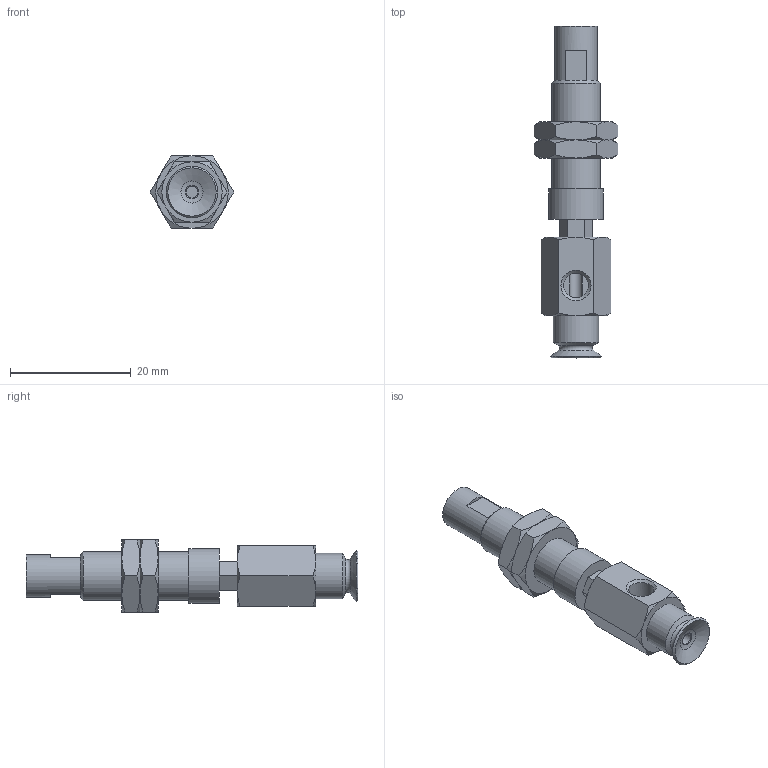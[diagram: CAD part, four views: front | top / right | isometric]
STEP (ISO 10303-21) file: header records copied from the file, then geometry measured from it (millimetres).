
FILE_DESCRIPTION(('STEP AP203'),'1');
FILE_NAME('.stp','2025-04-10T03:04:33',(' '),(' '),'Spatial InterOp 3D',' ',' ');
FILE_SCHEMA(('CONFIG_CONTROL_DESIGN'));
Length unit declared in the file: millimetre
Products named in the file (6): BNABPFYH-8A-3-※; CONNECTOR-H-8A-3; Nut-8A-3-h; NAPFTH-8A-3-FBODY; NAPFTH-8A-3-MBODY; BPFG-8A-※
Assembly tree (6 placements, depth 2):
  BNABPFYH-8A-3-※
    CONNECTOR-H-8A-3
    Nut-8A-3-h  x2
    NAPFTH-8A-3-FBODY
    NAPFTH-8A-3-MBODY
    BPFG-8A-※
Bounding box: 13.86 x 55 x 12 mm (x, y, z)
Volume: 3273.3 mm3; surface area: 3973 mm2
Topology: 6 solids, 6 shells, 139 faces, 302 edges, 183 vertices
Faces by surface type: plane 62, cone 51, cylinder 15, torus 10, bspline 1
Full cylindrical faces by diameter (mm): 2 x2, 4 x2, 4.134 x2, 5 x1, 6 x2, 7 x1, 7.188 x2, 7.5 x1, 8 x1, 9 x1
Entity records: 3467 total; most frequent: CARTESIAN_POINT 854, DIRECTION 478, ORIENTED_EDGE 418, EDGE_CURVE 209, AXIS2_PLACEMENT_3D 201, EDGE_LOOP 170, VERTEX_POINT 147, FACE_OUTER_BOUND 141
